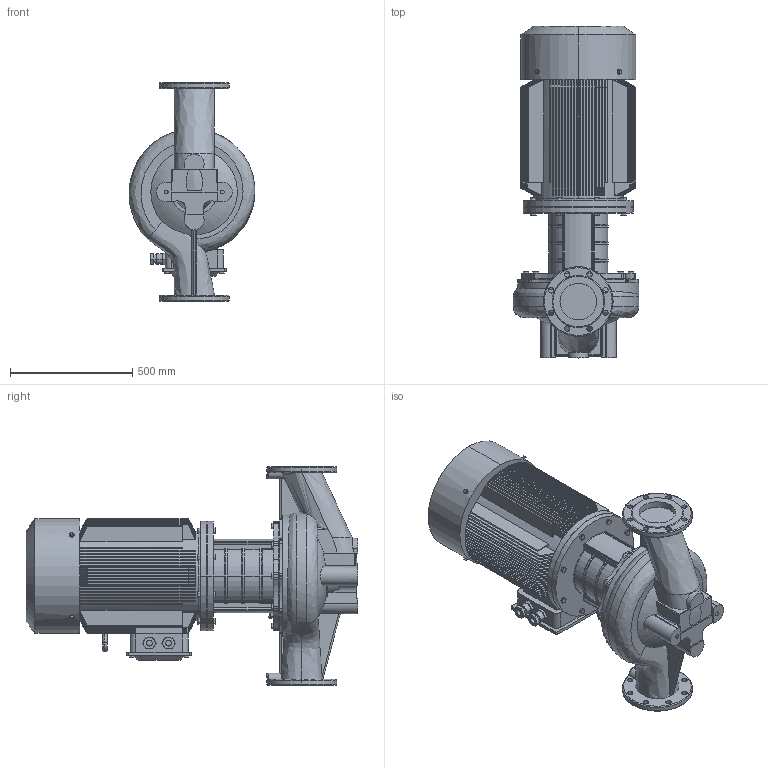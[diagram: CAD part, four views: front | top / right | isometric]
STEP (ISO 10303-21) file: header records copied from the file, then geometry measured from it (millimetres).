
FILE_DESCRIPTION (( 'STEP AP203' ), '1' );
FILE_NAME ('TD150-40G／4.STEP', '2026-09-07T03:02:03', ( '' ), ( '' ), 'SwSTEP 2.0', 'SolidWorks 2020', '' );
FILE_SCHEMA (( 'CONFIG_CONTROL_DESIGN' ));
Products named in the file (1): TD150-40Gㄞ4
Bounding box: 514.87 x 1358 x 900 mm (x, y, z)
Volume: 182337018.6 mm3; surface area: 6882204.6 mm2
Topology: 1 solids, 13 shells, 1894 faces, 4780 edges, 2957 vertices
Faces by surface type: plane 780, cylinder 487, cone 482, torus 90, sphere 28, bspline 27
Entity records: 79503 total; most frequent: CARTESIAN_POINT 35073, ORIENTED_EDGE 9504, DIRECTION 9099, EDGE_CURVE 4752, AXIS2_PLACEMENT_3D 3633, VERTEX_POINT 2957, EDGE_LOOP 2019, FACE_OUTER_BOUND 1894
